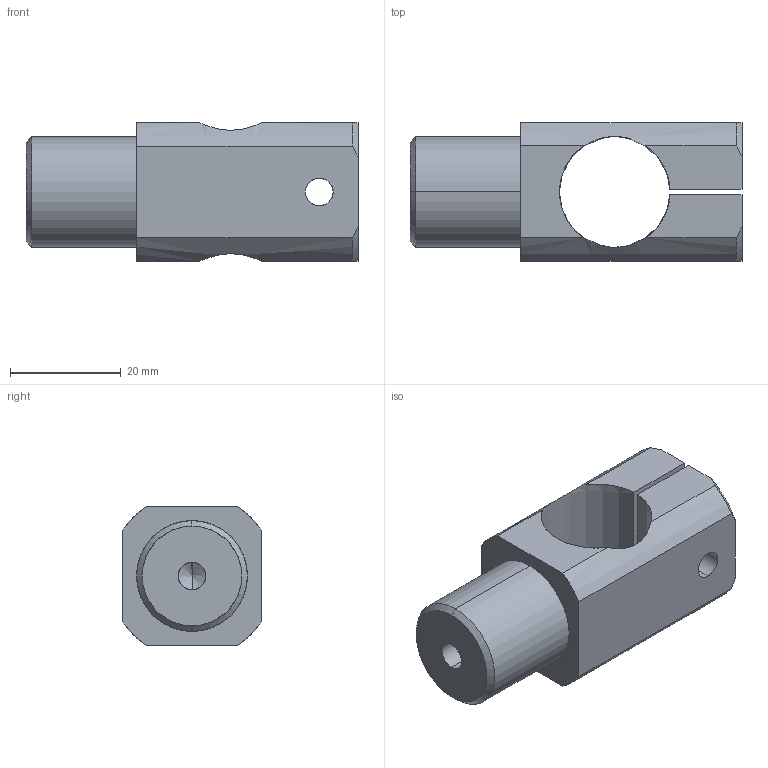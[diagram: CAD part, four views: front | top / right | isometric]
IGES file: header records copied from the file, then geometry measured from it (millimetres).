
Start section: SolidWorks IGES file using analytic representation for surfaces
Global section: file name: C:\Documents and Settings\CAD53\デスクトップ\IGES\N01864-304-1.IGS; native system: SolidWorks 2005 by SolidWorks Corporation; preprocessor: SolidWorks 2005 by SolidWorks Corporation; author: CAD53; date: 070530.112339; units: millimetre
Bounding box: 60 x 25 x 25 mm (x, y, z)
Surface area: 8153.6 mm2 (no closed solid volume)
Topology: 0 solids, 0 shells, 38 faces, 602 edges, 600 vertices
Faces by surface type: revolution 23, bspline 15
